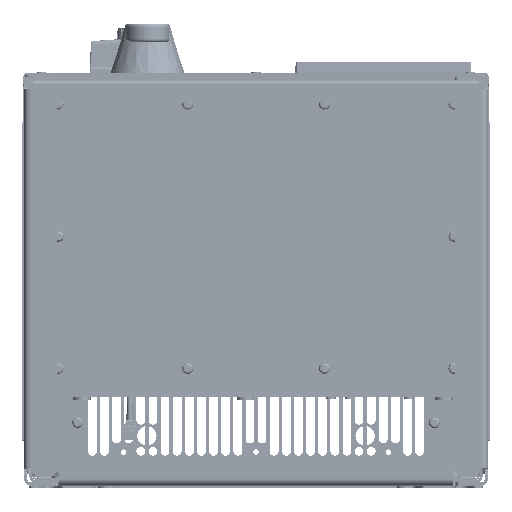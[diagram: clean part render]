
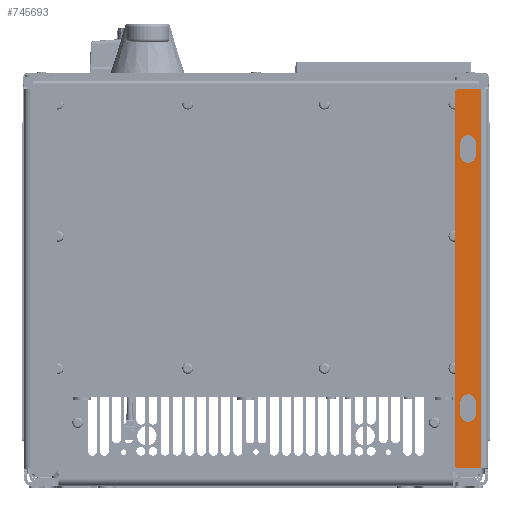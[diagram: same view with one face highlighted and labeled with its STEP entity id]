
A CAD part, front view. The second image highlights one B-rep face of the part: STEP entity #745693.
In plain terms, the highlighted planar face has unit normal (0, -1, 0).
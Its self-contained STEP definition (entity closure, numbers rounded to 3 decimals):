
#740538=DIRECTION('',(0.,0.,1.));
#740539=VECTOR('',#740538,344.);
#740540=CARTESIAN_POINT('',(204.4,-42.113,16.));
#740541=LINE('',#740540,#740539);
#740545=DIRECTION('',(0.,0.,1.));
#740546=VECTOR('',#740545,11.);
#740547=CARTESIAN_POINT('',(185.4,-42.113,300.));
#740548=LINE('',#740547,#740546);
#740552=CARTESIAN_POINT('',(192.4,-42.113,300.));
#740553=DIRECTION('',(0.,-1.,0.));
#740554=DIRECTION('',(-1.,0.,0.));
#740555=AXIS2_PLACEMENT_3D('',#740552,#740553,#740554);
#740560=DIRECTION('',(0.,0.,-1.));
#740561=VECTOR('',#740560,11.);
#740562=CARTESIAN_POINT('',(199.4,-42.113,311.));
#740563=LINE('',#740562,#740561);
#740567=CARTESIAN_POINT('',(192.4,-42.113,311.));
#740568=DIRECTION('',(0.,-1.,0.));
#740569=DIRECTION('',(1.,0.,0.));
#740570=AXIS2_PLACEMENT_3D('',#740567,#740568,#740569);
#740575=DIRECTION('',(0.,0.,1.));
#740576=VECTOR('',#740575,11.);
#740577=CARTESIAN_POINT('',(185.4,-42.113,65.));
#740578=LINE('',#740577,#740576);
#740582=CARTESIAN_POINT('',(192.4,-42.113,65.));
#740583=DIRECTION('',(0.,-1.,0.));
#740584=DIRECTION('',(-1.,0.,0.));
#740585=AXIS2_PLACEMENT_3D('',#740582,#740583,#740584);
#740590=DIRECTION('',(0.,0.,-1.));
#740591=VECTOR('',#740590,11.);
#740592=CARTESIAN_POINT('',(199.4,-42.113,76.));
#740593=LINE('',#740592,#740591);
#740597=CARTESIAN_POINT('',(192.4,-42.113,76.));
#740598=DIRECTION('',(0.,-1.,0.));
#740599=DIRECTION('',(1.,0.,0.));
#740600=AXIS2_PLACEMENT_3D('',#740597,#740598,#740599);
#740605=CARTESIAN_POINT('',(183.6,-42.113,19.2));
#740606=DIRECTION('',(0.,-1.,0.));
#740607=DIRECTION('',(-1.,0.,0.));
#740608=AXIS2_PLACEMENT_3D('',#740605,#740606,#740607);
#740613=DIRECTION('',(0.,0.,-1.));
#740614=VECTOR('',#740613,337.6);
#740615=CARTESIAN_POINT('',(180.4,-42.113,356.8));
#740616=LINE('',#740615,#740614);
#740620=CARTESIAN_POINT('',(183.6,-42.113,356.8));
#740621=DIRECTION('',(0.,-1.,0.));
#740622=DIRECTION('',(0.,0.,1.));
#740623=AXIS2_PLACEMENT_3D('',#740620,#740621,#740622);
#740628=DIRECTION('',(-1.,0.,0.));
#740629=VECTOR('',#740628,20.8);
#740630=CARTESIAN_POINT('',(204.4,-42.113,360.));
#740631=LINE('',#740630,#740629);
#740635=DIRECTION('',(1.,0.,0.));
#740636=VECTOR('',#740635,20.8);
#740637=CARTESIAN_POINT('',(183.6,-42.113,16.));
#740638=LINE('',#740637,#740636);
#743908=CARTESIAN_POINT('',(204.4,-42.113,16.));
#743909=CARTESIAN_POINT('',(204.4,-42.113,360.));
#743910=VERTEX_POINT('',#743908);
#743911=VERTEX_POINT('',#743909);
#744128=CARTESIAN_POINT('',(185.4,-42.113,300.));
#744129=CARTESIAN_POINT('',(185.4,-42.113,311.));
#744130=VERTEX_POINT('',#744128);
#744131=VERTEX_POINT('',#744129);
#744132=CARTESIAN_POINT('',(199.4,-42.113,311.));
#744133=VERTEX_POINT('',#744132);
#744134=CARTESIAN_POINT('',(199.4,-42.113,300.));
#744135=VERTEX_POINT('',#744134);
#744136=CARTESIAN_POINT('',(185.4,-42.113,65.));
#744137=CARTESIAN_POINT('',(185.4,-42.113,76.));
#744138=VERTEX_POINT('',#744136);
#744139=VERTEX_POINT('',#744137);
#744140=CARTESIAN_POINT('',(199.4,-42.113,76.));
#744141=VERTEX_POINT('',#744140);
#744142=CARTESIAN_POINT('',(199.4,-42.113,65.));
#744143=VERTEX_POINT('',#744142);
#744220=CARTESIAN_POINT('',(180.4,-42.113,19.2));
#744221=CARTESIAN_POINT('',(183.6,-42.113,16.));
#744222=VERTEX_POINT('',#744220);
#744223=VERTEX_POINT('',#744221);
#744252=CARTESIAN_POINT('',(183.6,-42.113,360.));
#744253=CARTESIAN_POINT('',(180.4,-42.113,356.8));
#744254=VERTEX_POINT('',#744252);
#744255=VERTEX_POINT('',#744253);
#745655=CARTESIAN_POINT('',(210.4,-42.113,365.));
#745656=DIRECTION('',(0.,-1.,0.));
#745657=DIRECTION('',(0.,0.,1.));
#745658=AXIS2_PLACEMENT_3D('',#745655,#745656,#745657);
#745659=PLANE('',#745658);
#745661=ORIENTED_EDGE('',*,*,#745660,.F.);
#745663=ORIENTED_EDGE('',*,*,#745662,.F.);
#745665=ORIENTED_EDGE('',*,*,#745664,.F.);
#745667=ORIENTED_EDGE('',*,*,#745666,.F.);
#745668=ORIENTED_EDGE('',*,*,#745648,.F.);
#745670=ORIENTED_EDGE('',*,*,#745669,.F.);
#745671=EDGE_LOOP('',(#745661,#745663,#745665,#745667,#745668,#745670));
#745672=FACE_OUTER_BOUND('',#745671,.F.);
#745674=ORIENTED_EDGE('',*,*,#745673,.F.);
#745676=ORIENTED_EDGE('',*,*,#745675,.T.);
#745678=ORIENTED_EDGE('',*,*,#745677,.F.);
#745680=ORIENTED_EDGE('',*,*,#745679,.T.);
#745681=EDGE_LOOP('',(#745674,#745676,#745678,#745680));
#745682=FACE_BOUND('',#745681,.F.);
#745684=ORIENTED_EDGE('',*,*,#745683,.F.);
#745686=ORIENTED_EDGE('',*,*,#745685,.T.);
#745688=ORIENTED_EDGE('',*,*,#745687,.F.);
#745690=ORIENTED_EDGE('',*,*,#745689,.T.);
#745691=EDGE_LOOP('',(#745684,#745686,#745688,#745690));
#745692=FACE_BOUND('',#745691,.F.);
#745693=ADVANCED_FACE('',(#745672,#745682,#745692),#745659,.T.);
#740556=CIRCLE('',#740555,7.);
#740571=CIRCLE('',#740570,7.);
#740586=CIRCLE('',#740585,7.);
#740601=CIRCLE('',#740600,7.);
#740609=CIRCLE('',#740608,3.2);
#740624=CIRCLE('',#740623,3.2);
#745648=EDGE_CURVE('',#743910,#743911,#740541,.T.);
#745660=EDGE_CURVE('',#744222,#744223,#740609,.T.);
#745662=EDGE_CURVE('',#744255,#744222,#740616,.T.);
#745664=EDGE_CURVE('',#744254,#744255,#740624,.T.);
#745666=EDGE_CURVE('',#743911,#744254,#740631,.T.);
#745669=EDGE_CURVE('',#744223,#743910,#740638,.T.);
#745673=EDGE_CURVE('',#744138,#744139,#740578,.T.);
#745675=EDGE_CURVE('',#744138,#744143,#740586,.T.);
#745677=EDGE_CURVE('',#744141,#744143,#740593,.T.);
#745679=EDGE_CURVE('',#744141,#744139,#740601,.T.);
#745683=EDGE_CURVE('',#744130,#744131,#740548,.T.);
#745685=EDGE_CURVE('',#744130,#744135,#740556,.T.);
#745687=EDGE_CURVE('',#744133,#744135,#740563,.T.);
#745689=EDGE_CURVE('',#744133,#744131,#740571,.T.);
